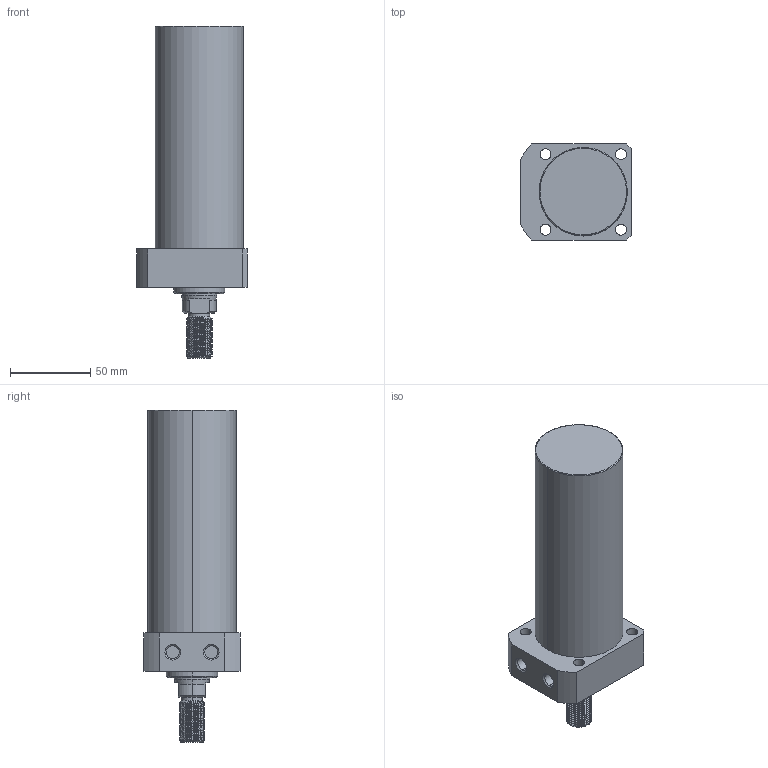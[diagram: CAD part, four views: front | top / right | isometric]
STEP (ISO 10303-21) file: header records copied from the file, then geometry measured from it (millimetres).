
FILE_DESCRIPTION (( 'STEP AP214' ), '1' );
FILE_NAME ('CLLR-055CT-110.STEP', '2020-01-10T00:53:03', ( 'Windows' ), ( 'Microsoft' ), 'SwSTEP 2.0', 'SolidWorks 2015', '' );
FILE_SCHEMA (( 'AUTOMOTIVE_DESIGN' ));
Length unit declared in the file: millimetre
Products named in the file (1): CLLR-055CT-110
Bounding box: 69 x 60 x 207 mm (x, y, z)
Volume: 435035.7 mm3; surface area: 43762.3 mm2
Topology: 1 solids, 1 shells, 101 faces, 259 edges, 168 vertices
Faces by surface type: cylinder 62, plane 20, cone 15, torus 2, bspline 2
Entity records: 5028 total; most frequent: CARTESIAN_POINT 2638, ORIENTED_EDGE 518, DIRECTION 458, EDGE_CURVE 259, AXIS2_PLACEMENT_3D 180, VERTEX_POINT 168, EDGE_LOOP 117, ADVANCED_FACE 101
